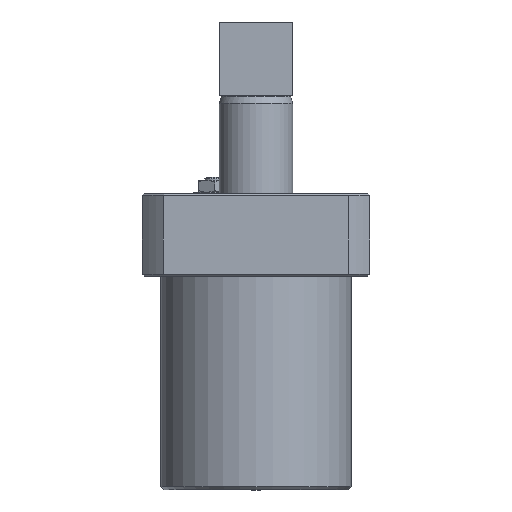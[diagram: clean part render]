
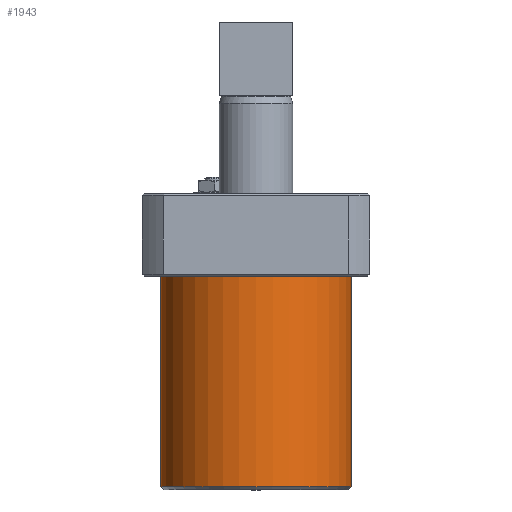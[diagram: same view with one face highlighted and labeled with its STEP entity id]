
A CAD part, left-side view. The second image highlights one B-rep face of the part: STEP entity #1943.
In plain terms, the highlighted cylindrical face has radius 29 mm (diameter 58 mm), a full revolution.
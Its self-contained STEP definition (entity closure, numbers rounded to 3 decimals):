
#165=CYLINDRICAL_SURFACE('',#2176,29.);
#481=ORIENTED_EDGE('',*,*,#928,.T.);
#482=ORIENTED_EDGE('',*,*,#927,.F.);
#927=EDGE_CURVE('',#1164,#1164,#1331,.T.);
#928=EDGE_CURVE('',#1165,#1165,#1332,.T.);
#1164=VERTEX_POINT('',#3052);
#1165=VERTEX_POINT('',#3055);
#1331=CIRCLE('',#2175,29.);
#1332=CIRCLE('',#2177,29.);
#1464=EDGE_LOOP('',(#481));
#1465=EDGE_LOOP('',(#482));
#1688=FACE_BOUND('',#1464,.T.);
#1689=FACE_BOUND('',#1465,.T.);
#1943=ADVANCED_FACE('',(#1688,#1689),#165,.T.);
#2175=AXIS2_PLACEMENT_3D('',#3051,#2500,#2501);
#2176=AXIS2_PLACEMENT_3D('',#3053,#2502,#2503);
#2177=AXIS2_PLACEMENT_3D('',#3054,#2504,#2505);
#2500=DIRECTION('',(0.,0.,1.));
#2501=DIRECTION('',(0.,-1.,0.));
#2502=DIRECTION('',(0.,0.,1.));
#2503=DIRECTION('',(0.,-1.,0.));
#2504=DIRECTION('',(0.,0.,1.));
#2505=DIRECTION('',(1.,0.,0.));
#3051=CARTESIAN_POINT('',(0.,36.5,-6.1));
#3052=CARTESIAN_POINT('',(0.,7.5,-6.1));
#3053=CARTESIAN_POINT('',(0.,36.5,-71.1));
#3054=CARTESIAN_POINT('',(0.,36.5,-70.1));
#3055=CARTESIAN_POINT('',(29.,36.5,-70.1));
